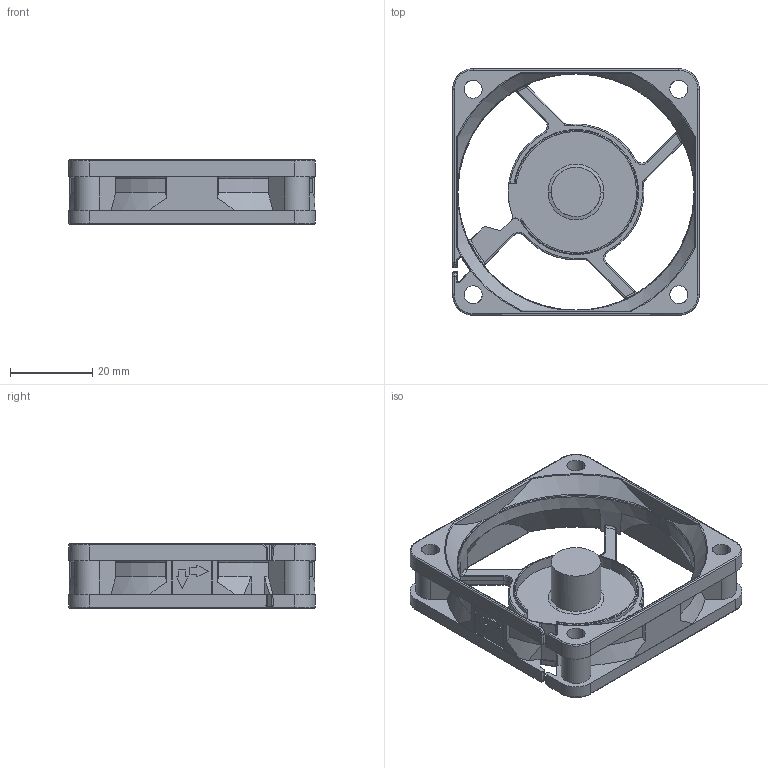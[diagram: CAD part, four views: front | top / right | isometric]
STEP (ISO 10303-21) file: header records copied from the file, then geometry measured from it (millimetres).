
FILE_DESCRIPTION( ('This file contains a STEP AP42 implementation' ,'as created by ZW3D STEP Interface translator.') ,'2;1' );
FILE_NAME( '6015DÍâ¿ò.stp' ,'25 915.163944', (''), ('ZWCAD Software Co.'), 'Version 1.0', 'ZW3D to STEP translator', '' );
FILE_SCHEMA(('AUTOMOTIVE_DESIGN'));
Length unit declared in the file: millimetre
Products named in the file (1): 0
Bounding box: 60 x 60 x 15.7 mm (x, y, z)
Volume: 11470.7 mm3; surface area: 13103.8 mm2
Topology: 1 solids, 1 shells, 398 faces, 1092 edges, 694 vertices
Faces by surface type: bspline 398
Entity records: 17941 total; most frequent: CARTESIAN_POINT 11394, ORIENTED_EDGE 2174, EDGE_CURVE 1087, B_SPLINE_CURVE_WITH_KNOTS 782, VERTEX_POINT 692, EDGE_LOOP 415, FACE_OUTER_BOUND 398, ADVANCED_FACE 398
